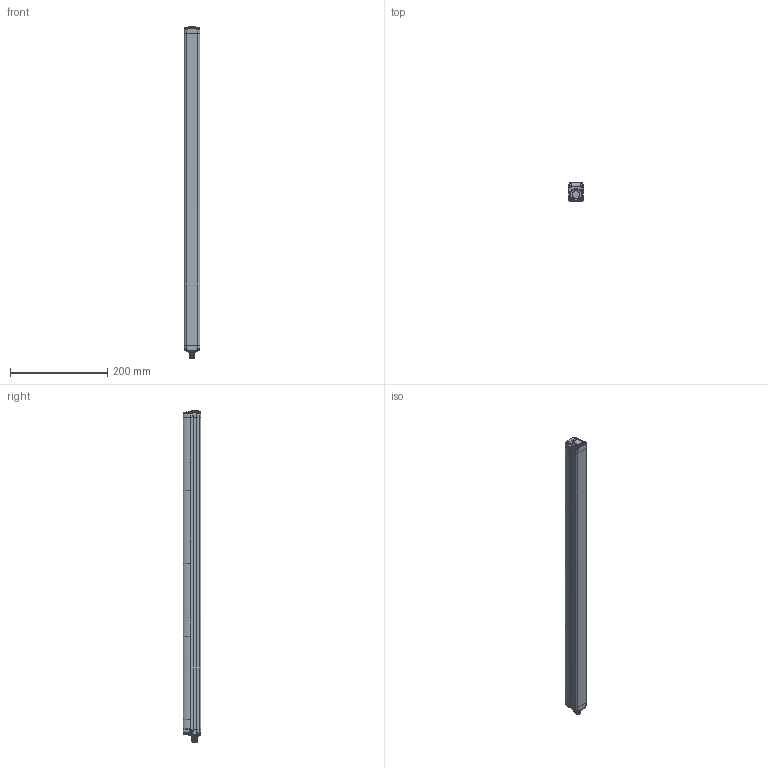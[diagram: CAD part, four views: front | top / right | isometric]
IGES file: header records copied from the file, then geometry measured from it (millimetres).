
Global section: file name: D:\Studi\DSD-0160.igs; preprocessor: I-DEAS 3D IGES Translator 11; date: 20080609.151431; units: millimetre
Bounding box: 32.3 x 36.9 x 683.24 mm (x, y, z)
Volume: 662562.6 mm3; surface area: 161972.2 mm2
Topology: 12 solids, 12 shells, 1626 faces, 6337 edges, 5182 vertices
Faces by surface type: bspline 1626
